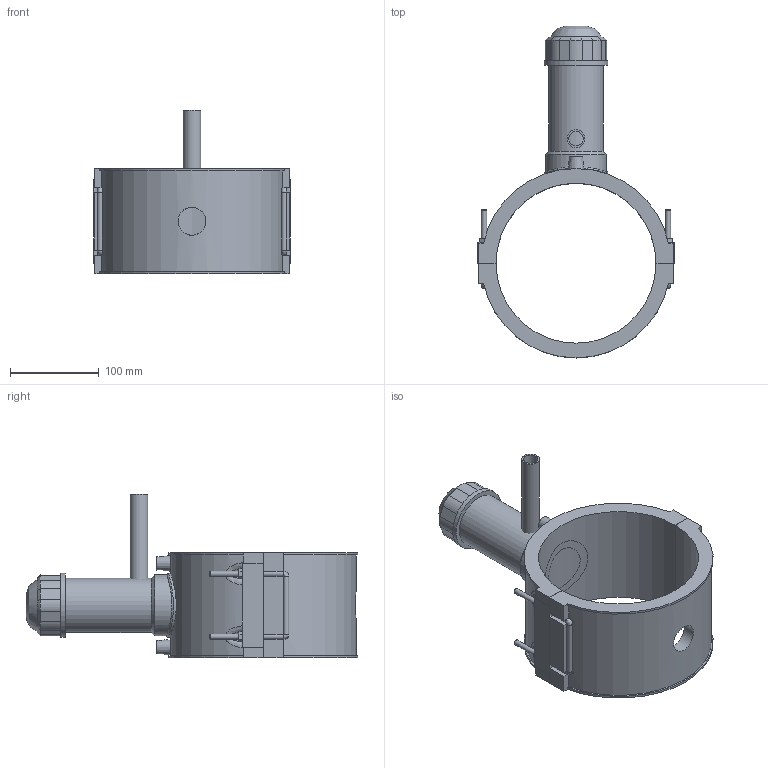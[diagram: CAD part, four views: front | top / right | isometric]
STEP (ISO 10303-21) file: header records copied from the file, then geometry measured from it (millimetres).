
FILE_DESCRIPTION(/* description */ (''),/* implementation_level */ '2;1');
FILE_NAME(/* name */ 'C:\Dropbox\KIMPROJECTS-Inventor 2019\99-16-3568-Processing\ElectroFusion Fittings\4963P4\stp\4963P4180020.stp',/* time_stamp */ '2022-03-17T11:30:42+02:00',/* author */ ('KIM'),/* organization */ (''),/* preprocessor_version */ 'ST-DEVELOPER v17.2',/* originating_system */ 'Autodesk Inventor 2019',/* authorisation */ '');
FILE_SCHEMA (('AUTOMOTIVE_DESIGN { 1 0 10303 214 3 1 1 }'));
Length unit declared in the file: millimetre
Products named in the file (1): 4963P4180020
Bounding box: 221 x 373.49 x 184 mm (x, y, z)
Volume: 1435616.7 mm3; surface area: 269131.6 mm2
Topology: 3 solids, 3 shells, 193 faces, 494 edges, 316 vertices
Faces by surface type: plane 111, cylinder 53, cone 15, bspline 14
Full cylindrical faces by diameter (mm): 4 x2, 6 x8, 10 x2, 16 x1, 20 x1, 31.36 x1, 50.4 x1, 61.2 x1, 68.4 x1, 72 x2
Entity records: 7018 total; most frequent: CARTESIAN_POINT 2359, ORIENTED_EDGE 972, DIRECTION 922, EDGE_CURVE 486, VERTEX_POINT 316, AXIS2_PLACEMENT_3D 313, LINE 296, VECTOR 296
